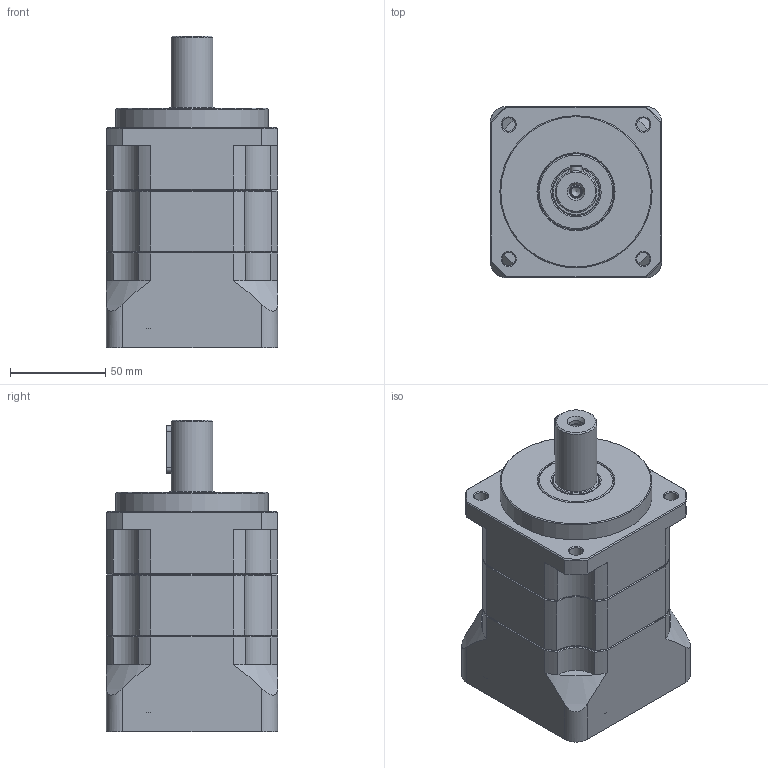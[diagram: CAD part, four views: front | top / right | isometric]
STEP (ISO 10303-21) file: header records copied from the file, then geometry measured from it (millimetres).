
FILE_DESCRIPTION (( 'STEP AP203' ), '1' );
FILE_NAME ('JHP90-L2.STEP', '2015-02-26T06:29:51', ( 'wang' ), ( '' ), 'SwSTEP 2.0', 'SolidWorks 2013', '' );
FILE_SCHEMA (( 'CONFIG_CONTROL_DESIGN' ));
Length unit declared in the file: millimetre
Products named in the file (1): JHP90-L2
Bounding box: 90 x 90 x 163.9 mm (x, y, z)
Volume: 539488.7 mm3; surface area: 157584.1 mm2
Topology: 8 solids, 8 shells, 743 faces, 2060 edges, 1361 vertices
Faces by surface type: sphere 196, plane 185, cylinder 158, torus 112, cone 92
Full cylindrical faces by diameter (mm): 5 x2, 6 x5, 6.5 x8, 7 x5, 8 x6, 11 x4, 12 x1, 17 x1, 22 x1, 24.6 x1, 25 x3, 28 x1, 30.8 x1, 31.6 x2, 34.9 x1, 37 x1, 37.1 x1, 40 x2, 40.4 x2, 47 x2, 50 x1, 55 x2, 60 x3, 62 x1, 65.4 x2, 68.1 x1, 68.749 x2, 69.9 x1, 70 x1, 72.6 x2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
Entity records: 38542 total; most frequent: CARTESIAN_POINT 20606, ORIENTED_EDGE 3780, DIRECTION 3411, EDGE_CURVE 1890, AXIS2_PLACEMENT_3D 1606, VERTEX_POINT 1317, EDGE_LOOP 1149, CIRCLE 862
